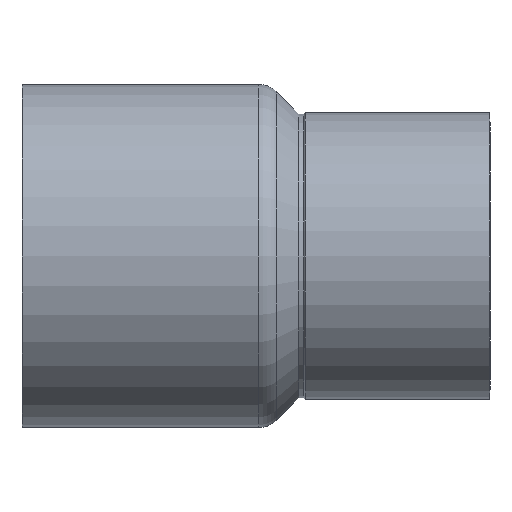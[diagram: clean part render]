
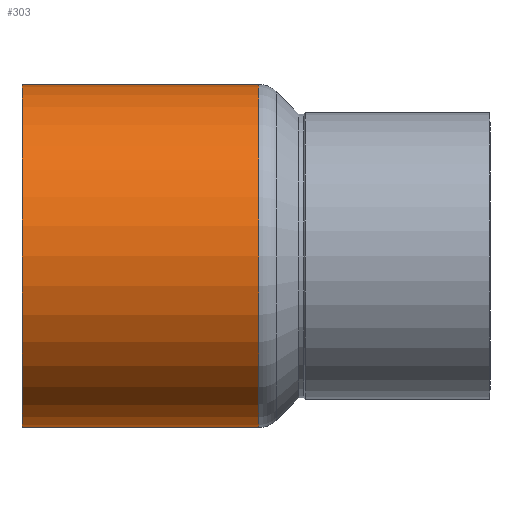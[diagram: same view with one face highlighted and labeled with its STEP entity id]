
A CAD part, front view. The second image highlights one B-rep face of the part: STEP entity #303.
In plain terms, the highlighted cylindrical face has radius 21 mm (diameter 42 mm), a full revolution.
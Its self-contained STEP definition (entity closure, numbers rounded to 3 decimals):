
#269=CARTESIAN_POINT('',(0.0,21.0,0.0));
#270=VERTEX_POINT('',#269);
#271=CARTESIAN_POINT('',(0.0,0.0,0.0));
#272=DIRECTION('',(1.0,0.0,0.0));
#273=DIRECTION('',(0.0,1.0,0.0));
#274=AXIS2_PLACEMENT_3D('',#271,#272,#273);
#275=CIRCLE('',#274,21.0);
#276=EDGE_CURVE('',#270,#270,#275,.T.);
#284=CARTESIAN_POINT('',(14.5,0.0,0.0));
#285=DIRECTION('',(1.0,0.0,0.0));
#286=DIRECTION('',(0.0,1.0,0.0));
#287=AXIS2_PLACEMENT_3D('',#284,#285,#286);
#288=CYLINDRICAL_SURFACE('',#287,21.);
#289=CARTESIAN_POINT('',(29.,21.,0.0));
#290=VERTEX_POINT('',#289);
#291=CARTESIAN_POINT('',(29.,0.0,0.0));
#292=DIRECTION('',(1.0,0.0,0.0));
#293=DIRECTION('',(0.0,1.0,0.0));
#294=AXIS2_PLACEMENT_3D('',#291,#292,#293);
#295=CIRCLE('',#294,21.);
#296=EDGE_CURVE('',#290,#290,#295,.T.);
#297=ORIENTED_EDGE('',*,*,#296,.F.);
#298=EDGE_LOOP('',(#297));
#299=FACE_OUTER_BOUND('',#298,.T.);
#300=ORIENTED_EDGE('',*,*,#276,.T.);
#301=EDGE_LOOP('',(#300));
#302=FACE_BOUND('',#301,.T.);
#303=ADVANCED_FACE('',(#299,#302),#288,.T.);
